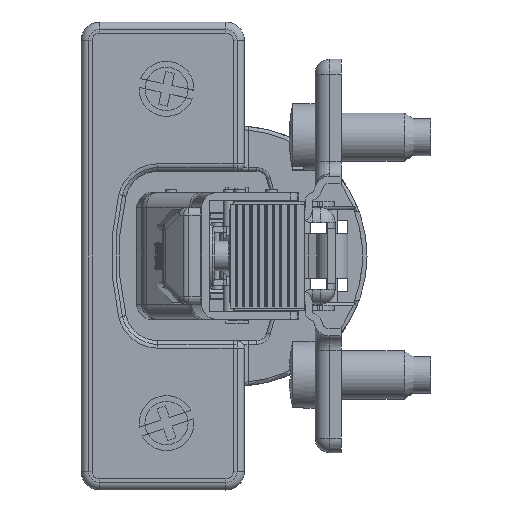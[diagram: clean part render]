
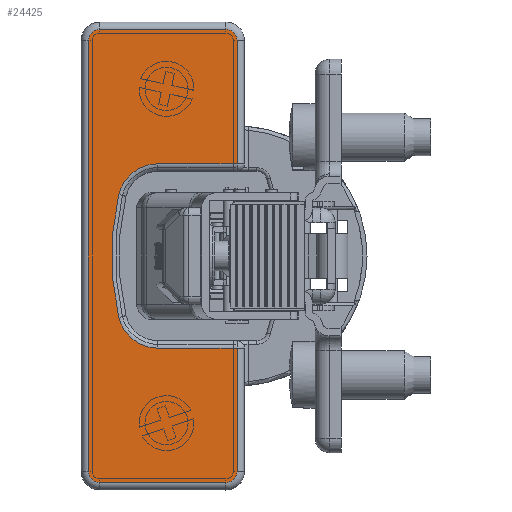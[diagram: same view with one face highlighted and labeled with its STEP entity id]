
A CAD part, left-side view. The second image highlights one B-rep face of the part: STEP entity #24425.
In plain terms, the highlighted planar face has unit normal (-1, 0, 0) as drawn and (0.179, 0.984, 0) by its records, which use the part's own axes.
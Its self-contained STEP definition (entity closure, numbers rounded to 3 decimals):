
#2347=CIRCLE('',#26540,1.5);
#2351=CIRCLE('',#26546,1.5);
#2355=CIRCLE('',#26552,1.5);
#2359=CIRCLE('',#26558,1.5);
#2363=CIRCLE('',#26565,5.4);
#2366=CIRCLE('',#26569,35.4);
#2369=CIRCLE('',#26573,5.4);
#3513=FACE_OUTER_BOUND('',#5017,.T.);
#5017=EDGE_LOOP('',(#19834,#19835,#19836,#19837,#19838,#19839,#19840,#19841,
#19842,#19843,#19844,#19845,#19846,#19847));
#6875=LINE('',#40920,#8833);
#6877=LINE('',#40932,#8835);
#6879=LINE('',#40944,#8837);
#6881=LINE('',#40956,#8839);
#6883=LINE('',#40965,#8841);
#6885=LINE('',#40971,#8843);
#6887=LINE('',#40992,#8845);
#8833=VECTOR('',#32031,16.6);
#8835=VECTOR('',#32045,17.);
#8837=VECTOR('',#32059,58.);
#8839=VECTOR('',#32073,17.);
#8841=VECTOR('',#32085,16.6);
#8843=VECTOR('',#32091,10.672);
#8845=VECTOR('',#32119,10.672);
#10904=VERTEX_POINT('',#40892);
#10909=VERTEX_POINT('',#40905);
#10914=VERTEX_POINT('',#40918);
#10916=VERTEX_POINT('',#40924);
#10918=VERTEX_POINT('',#40930);
#10920=VERTEX_POINT('',#40936);
#10922=VERTEX_POINT('',#40942);
#10924=VERTEX_POINT('',#40948);
#10926=VERTEX_POINT('',#40954);
#10928=VERTEX_POINT('',#40960);
#10930=VERTEX_POINT('',#40969);
#10932=VERTEX_POINT('',#40975);
#10934=VERTEX_POINT('',#40981);
#10936=VERTEX_POINT('',#40987);
#13919=EDGE_CURVE('',#10914,#10909,#6875,.T.);
#13922=EDGE_CURVE('',#10916,#10914,#2347,.T.);
#13925=EDGE_CURVE('',#10918,#10916,#6877,.T.);
#13928=EDGE_CURVE('',#10920,#10918,#2351,.T.);
#13931=EDGE_CURVE('',#10922,#10920,#6879,.T.);
#13934=EDGE_CURVE('',#10924,#10922,#2355,.T.);
#13937=EDGE_CURVE('',#10926,#10924,#6881,.T.);
#13940=EDGE_CURVE('',#10928,#10926,#2359,.T.);
#13942=EDGE_CURVE('',#10904,#10928,#6883,.T.);
#13945=EDGE_CURVE('',#10930,#10904,#6885,.T.);
#13948=EDGE_CURVE('',#10932,#10930,#2363,.T.);
#13951=EDGE_CURVE('',#10934,#10932,#2366,.T.);
#13954=EDGE_CURVE('',#10936,#10934,#2369,.T.);
#13956=EDGE_CURVE('',#10909,#10936,#6887,.T.);
#19834=ORIENTED_EDGE('',*,*,#13919,.F.);
#19835=ORIENTED_EDGE('',*,*,#13922,.F.);
#19836=ORIENTED_EDGE('',*,*,#13925,.F.);
#19837=ORIENTED_EDGE('',*,*,#13928,.F.);
#19838=ORIENTED_EDGE('',*,*,#13931,.F.);
#19839=ORIENTED_EDGE('',*,*,#13934,.F.);
#19840=ORIENTED_EDGE('',*,*,#13937,.F.);
#19841=ORIENTED_EDGE('',*,*,#13940,.F.);
#19842=ORIENTED_EDGE('',*,*,#13942,.F.);
#19843=ORIENTED_EDGE('',*,*,#13945,.F.);
#19844=ORIENTED_EDGE('',*,*,#13948,.F.);
#19845=ORIENTED_EDGE('',*,*,#13951,.F.);
#19846=ORIENTED_EDGE('',*,*,#13954,.F.);
#19847=ORIENTED_EDGE('',*,*,#13956,.F.);
#21977=PLANE('',#26586);
#24425=ADVANCED_FACE('',(#3513),#21977,.T.);
#26540=AXIS2_PLACEMENT_3D('',#40926,#32037,#32038);
#26546=AXIS2_PLACEMENT_3D('',#40938,#32051,#32052);
#26552=AXIS2_PLACEMENT_3D('',#40950,#32065,#32066);
#26558=AXIS2_PLACEMENT_3D('',#40962,#32079,#32080);
#26565=AXIS2_PLACEMENT_3D('',#40977,#32097,#32098);
#26569=AXIS2_PLACEMENT_3D('',#40983,#32105,#32106);
#26573=AXIS2_PLACEMENT_3D('',#40989,#32113,#32114);
#26586=AXIS2_PLACEMENT_3D('',#41022,#32152,#32153);
#32031=DIRECTION('',(0.,0.,-1.));
#32037=DIRECTION('center_axis',(-0.179,-0.984,0.));
#32038=DIRECTION('ref_axis',(-0.696,0.126,0.707));
#32045=DIRECTION('',(-0.984,0.179,0.));
#32051=DIRECTION('center_axis',(-0.179,-0.984,0.));
#32052=DIRECTION('ref_axis',(0.696,-0.126,0.707));
#32059=DIRECTION('',(0.,0.,1.));
#32065=DIRECTION('center_axis',(-0.179,-0.984,0.));
#32066=DIRECTION('ref_axis',(0.696,-0.126,-0.707));
#32073=DIRECTION('',(0.984,-0.179,0.));
#32079=DIRECTION('center_axis',(-0.179,-0.984,0.));
#32080=DIRECTION('ref_axis',(-0.696,0.126,-0.707));
#32085=DIRECTION('',(0.,0.,-1.));
#32091=DIRECTION('',(-0.984,0.179,0.));
#32097=DIRECTION('center_axis',(0.179,0.984,0.));
#32098=DIRECTION('ref_axis',(0.609,-0.111,-0.785));
#32105=DIRECTION('center_axis',(0.179,0.984,0.));
#32106=DIRECTION('ref_axis',(0.984,-0.179,0.));
#32113=DIRECTION('center_axis',(0.179,0.984,0.));
#32114=DIRECTION('ref_axis',(0.609,-0.111,0.785));
#32119=DIRECTION('',(0.984,-0.179,0.));
#32152=DIRECTION('center_axis',(0.179,0.984,0.));
#32153=DIRECTION('ref_axis',(0.,0.,1.));
#40892=CARTESIAN_POINT('',(84.841,19.898,-12.4));
#40905=CARTESIAN_POINT('',(84.841,19.898,12.4));
#40918=CARTESIAN_POINT('',(84.841,19.898,29.));
#40920=CARTESIAN_POINT('',(84.841,19.898,5.7));
#40924=CARTESIAN_POINT('',(86.317,19.63,30.5));
#40926=CARTESIAN_POINT('Origin',(86.317,19.63,29.));
#40930=CARTESIAN_POINT('',(103.044,16.594,30.5));
#40932=CARTESIAN_POINT('',(91.106,18.761,30.5));
#40936=CARTESIAN_POINT('',(104.519,16.327,29.));
#40938=CARTESIAN_POINT('Origin',(103.044,16.594,29.));
#40942=CARTESIAN_POINT('',(104.519,16.327,-29.));
#40944=CARTESIAN_POINT('',(104.519,16.327,14.5));
#40948=CARTESIAN_POINT('',(103.044,16.594,-30.5));
#40950=CARTESIAN_POINT('Origin',(103.044,16.594,-29.));
#40954=CARTESIAN_POINT('',(86.317,19.63,-30.5));
#40956=CARTESIAN_POINT('',(99.469,17.243,-30.5));
#40960=CARTESIAN_POINT('',(84.841,19.898,-29.));
#40962=CARTESIAN_POINT('Origin',(86.317,19.63,-29.));
#40965=CARTESIAN_POINT('',(84.841,19.898,-14.5));
#40969=CARTESIAN_POINT('',(95.341,17.992,-12.4));
#40971=CARTESIAN_POINT('',(89.876,18.984,-12.4));
#40975=CARTESIAN_POINT('',(100.508,17.055,-8.26));
#40977=CARTESIAN_POINT('Origin',(95.341,17.992,-7.));
#40981=CARTESIAN_POINT('',(100.508,17.055,8.26));
#40983=CARTESIAN_POINT('Origin',(66.638,23.202,0.));
#40987=CARTESIAN_POINT('',(95.341,17.992,12.4));
#40989=CARTESIAN_POINT('Origin',(95.341,17.992,7.));
#40992=CARTESIAN_POINT('',(95.618,17.942,12.4));
#41022=CARTESIAN_POINT('Origin',(95.895,17.892,0.));
